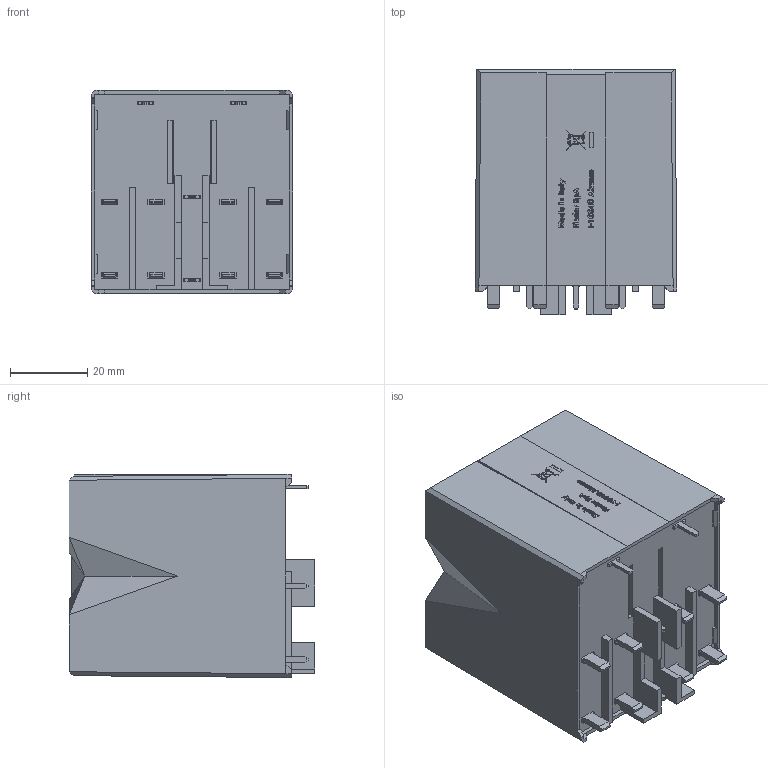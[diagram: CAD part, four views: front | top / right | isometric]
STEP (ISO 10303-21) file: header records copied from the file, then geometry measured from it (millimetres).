
FILE_DESCRIPTION(/* description */ ('Unknown'),/* implementation_level */ '2;1');
FILE_NAME(/* name */ '6855 S',/* time_stamp */ '2024-09-10T12:32:16+02:00',/* author */ ('Unknown'),/* organization */ ('Unknown'),/* preprocessor_version */ 'ST-DEVELOPER v18.102',/* originating_system */ 'Solid Edge',/* authorisation */ 'Unknown');
FILE_SCHEMA (('AUTOMOTIVE_DESIGN {1 0 10303 214 3 1 1}'));
Products named in the file (1): Complessivo 68_55 S
Bounding box: 52.2 x 63.5 x 52.5 mm (x, y, z)
Volume: 35106.8 mm3; surface area: 46999.1 mm2
Topology: 1 solids, 18 shells, 1779 faces, 4805 edges, 3137 vertices
Faces by surface type: plane 1427, cylinder 272, bspline 44, cone 22, torus 8, sphere 6
Full cylindrical faces by diameter (mm): 0.252 x1, 0.374 x2, 0.429 x5, 1.2 x2, 1.4 x4, 1.5 x5, 1.55 x1, 2.5 x8
Entity records: 69540 total; most frequent: CARTESIAN_POINT 13229, ORIENTED_EDGE 9432, DIRECTION 8312, EDGE_CURVE 4716, LINE 3704, VECTOR 3704, VERTEX_POINT 3112, AXIS2_PLACEMENT_3D 2304
